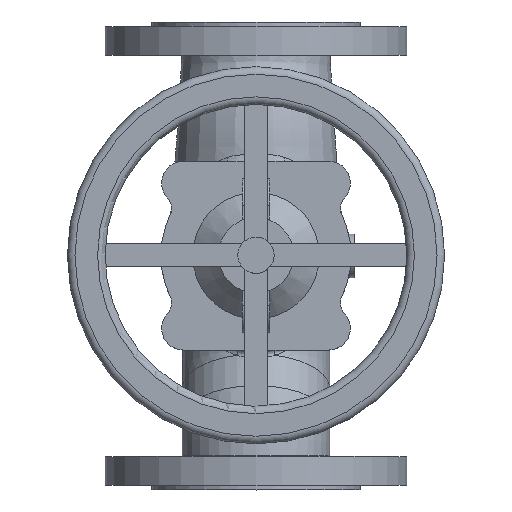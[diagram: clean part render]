
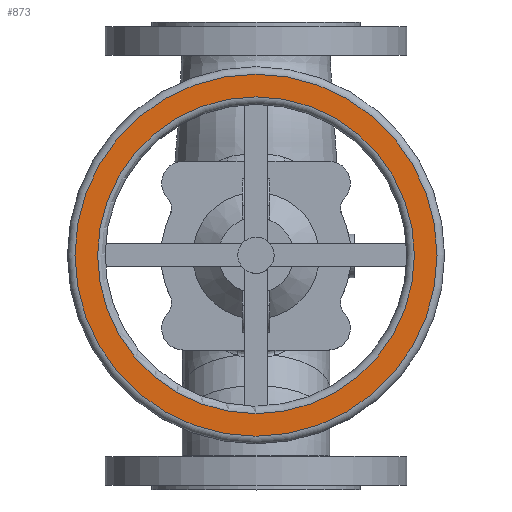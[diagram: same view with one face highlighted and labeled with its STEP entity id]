
A CAD part, top view. The second image highlights one B-rep face of the part: STEP entity #873.
In plain terms, the highlighted planar face has unit normal (0, 0, 1).
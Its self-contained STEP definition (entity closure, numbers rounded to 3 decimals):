
#873=ADVANCED_FACE('',(#2727,#2729),#2731,.T.);
#2727=FACE_BOUND('',#2728,.T.);
#2728=EDGE_LOOP('',(#32264,#32265));
#2729=FACE_BOUND('',#2730,.T.);
#2730=EDGE_LOOP('',(#32266,#32267));
#2731=PLANE('',#2732);
#2732=AXIS2_PLACEMENT_3D('',#2733,#2734,#2735);
#2733=CARTESIAN_POINT('',(0.,0.,290.));
#2734=DIRECTION('',(0.,0.,1.));
#2735=DIRECTION('',(0.,1.,0.));
#32264=ORIENTED_EDGE('',*,*,#41092,.F.);
#32265=ORIENTED_EDGE('',*,*,#41093,.F.);
#32266=ORIENTED_EDGE('',*,*,#41073,.T.);
#32267=ORIENTED_EDGE('',*,*,#41072,.T.);
#41072=EDGE_CURVE('',#41812,#41813,#41814,.T.);
#41073=EDGE_CURVE('',#41813,#41812,#41815,.T.);
#41092=EDGE_CURVE('',#41852,#41853,#41854,.T.);
#41093=EDGE_CURVE('',#41853,#41852,#41855,.T.);
#41812=VERTEX_POINT('',#43385);
#41813=VERTEX_POINT('',#43386);
#41814=CIRCLE('',#43387,105.);
#41815=CIRCLE('',#43391,105.);
#41852=VERTEX_POINT('',#43481);
#41853=VERTEX_POINT('',#43482);
#41854=CIRCLE('',#43483,120.);
#41855=CIRCLE('',#43487,120.);
#43385=CARTESIAN_POINT('',(0.,-105.,290.));
#43386=CARTESIAN_POINT('',(0.,105.,290.));
#43387=AXIS2_PLACEMENT_3D('',#43388,#43389,#43390);
#43388=CARTESIAN_POINT('',(0.,0.,290.));
#43389=DIRECTION('',(0.,0.,-1.));
#43390=DIRECTION('',(0.,-1.,0.));
#43391=AXIS2_PLACEMENT_3D('',#43392,#43393,#43394);
#43392=CARTESIAN_POINT('',(0.,0.,290.));
#43393=DIRECTION('',(0.,0.,-1.));
#43394=DIRECTION('',(0.,1.,0.));
#43481=CARTESIAN_POINT('',(0.,-120.,290.));
#43482=CARTESIAN_POINT('',(0.,120.,290.));
#43483=AXIS2_PLACEMENT_3D('',#43484,#43485,#43486);
#43484=CARTESIAN_POINT('',(0.,0.,290.));
#43485=DIRECTION('',(0.,0.,-1.));
#43486=DIRECTION('',(0.,-1.,0.));
#43487=AXIS2_PLACEMENT_3D('',#43488,#43489,#43490);
#43488=CARTESIAN_POINT('',(0.,0.,290.));
#43489=DIRECTION('',(0.,0.,-1.));
#43490=DIRECTION('',(0.,1.,0.));
